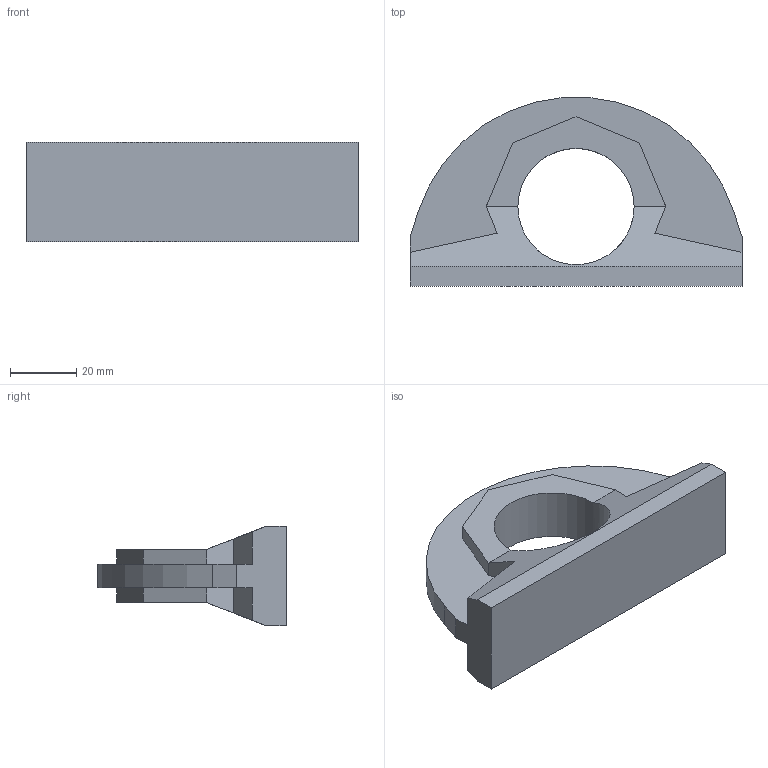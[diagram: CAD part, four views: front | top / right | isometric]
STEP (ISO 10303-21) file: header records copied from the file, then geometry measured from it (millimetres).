
FILE_DESCRIPTION(/* description */ ('STEP AP214'),/* implementation_level */ '2;1');
FILE_NAME(/* name */ 'Lifting point GN 589-100',/* time_stamp */ '2023-10-25T14:17:00+02:00',/* author */ ('License CC BY-ND 4.0'),/* organization */ ('CADENAS'),/* preprocessor_version */ 'ST-DEVELOPER v19.3',/* originating_system */ 'PARTsolutions',/* authorisation */ ' ');
FILE_SCHEMA (('AUTOMOTIVE_DESIGN {1 0 10303 214 3 1 1}'));
Length unit declared in the file: millimetre
Products named in the file (1): Lifting point GN 589-100
Bounding box: 100 x 56.82 x 30 mm (x, y, z)
Volume: 58859.4 mm3; surface area: 16243 mm2
Topology: 1 solids, 1 shells, 31 faces, 91 edges, 60 vertices
Faces by surface type: plane 29, cylinder 2
Full cylindrical faces by diameter (mm): 35 x1
Entity records: 1044 total; most frequent: CARTESIAN_POINT 182, ORIENTED_EDGE 180, DIRECTION 160, EDGE_CURVE 90, LINE 84, VECTOR 84, VERTEX_POINT 60, AXIS2_PLACEMENT_3D 38
